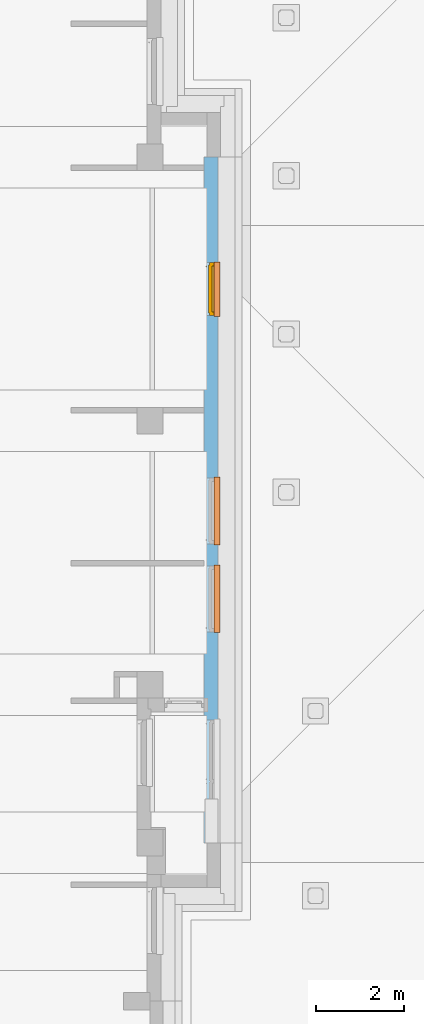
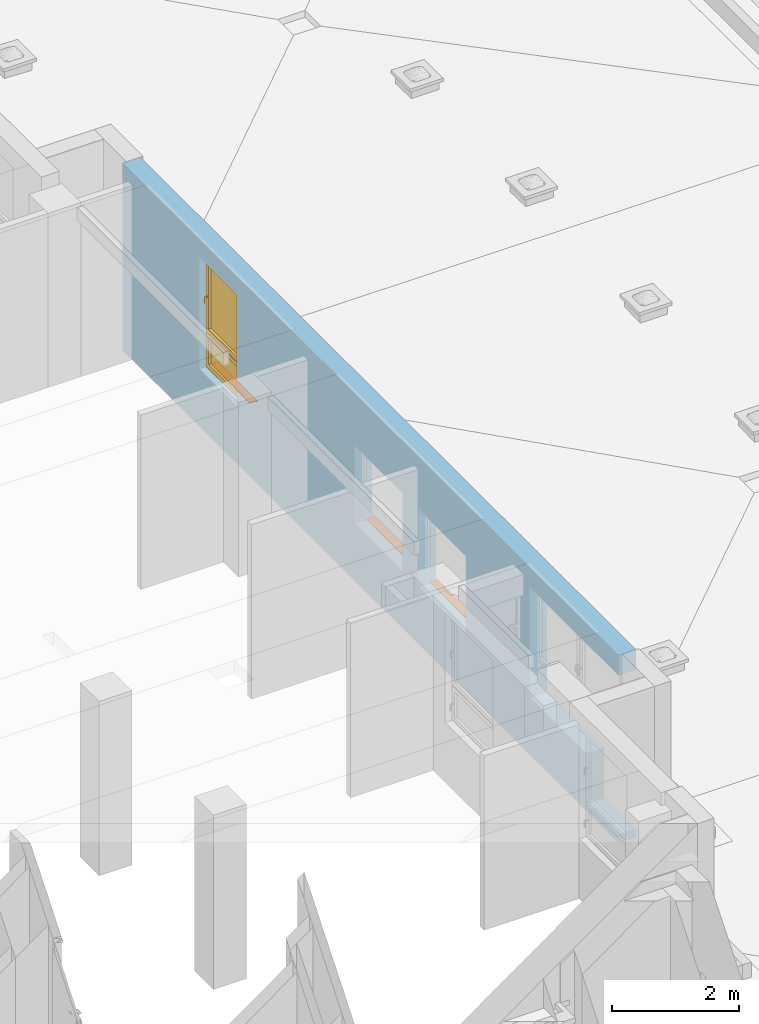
# One storey, part 43 of 50: 3 proxies, 1 window, 5 openings, plus 1 element that does not belong to this part.
"""IFC4 building model written with IfcOpenShell, lengths in metres."""

from ifc_helpers import new_model, entity, si_unit, converted_unit, derived_unit, frame, frame_2d, origin, origin_with_axes, place, context, subcontext, project, spatial, polyline, rectangle, outline, extrude, closed_shell, open_shell, faceted_brep, surface_model, source, transform, mapped, material, layer, layer_set, layer_usage, element, fill, save


model = new_model("IFC4")

# Units and contexts
model_context = context("Model", 3, precision=1e-05, world=origin())
body_context = subcontext(model_context, "Body", "Model", "MODEL_VIEW")
ifc_project = project(units=[si_unit("LENGTHUNIT", "METRE"), si_unit("AREAUNIT", "SQUARE_METRE"), si_unit("VOLUMEUNIT", "CUBIC_METRE"), si_unit("MASSUNIT", "GRAM", prefix="KILO"), converted_unit("PLANEANGLEUNIT", "DEGREE", entity("IfcPlaneAngleMeasure", 0.0174532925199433), si_unit("PLANEANGLEUNIT", "RADIAN"), dimensions=[0, 0, 0, 0, 0, 0, 0]), derived_unit("THERMALTRANSMITTANCEUNIT", [(si_unit("POWERUNIT", "WATT"), 1), (si_unit("THERMODYNAMICTEMPERATUREUNIT", "KELVIN"), -1), (si_unit("LENGTHUNIT", "METRE"), -2)]), derived_unit("VOLUMETRICFLOWRATEUNIT", [(si_unit("LENGTHUNIT", "METRE"), 3), (converted_unit("TIMEUNIT", "hour", entity("IfcTimeMeasure", 3600.0), si_unit("TIMEUNIT", "SECOND"), dimensions=[0, 0, 1, 0, 0, 0, 0]), -1), (si_unit("LENGTHUNIT", "METRE"), -1)])], contexts=[model_context])

# Site, building, storey
site_placement = place(None, origin())
site = spatial("IfcSite", under=ifc_project, at=site_placement, Name="3. ASŘ", CompositionType="ELEMENT")
building_placement = place(site_placement, origin())
building = spatial("IfcBuilding", under=site, at=building_placement, Name="Pavilon C", CompositionType="ELEMENT")
storey_placement = place(building_placement, frame((0.0, 0.0, 3.6)))
storey = spatial("IfcBuildingStorey", under=building, at=storey_placement, Name="Půdorys 2.NP", CompositionType="ELEMENT", Elevation=3.6)

# Wall, openings, window, proxies
ifc_material_1 = material(Name="PLYNOSILIKÁT")
ifc_layer = layer(ifc_material_1, 0.32)
ifc_layer_set = layer_set([ifc_layer])
ifc_layer_usage = layer_usage(ifc_layer_set, "AXIS2", "POSITIVE", 0.0)
wall_placement = place(storey_placement, frame((51.5, 3.59999999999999, -0.1), z_axis=(0.0, 0.0, 1.0), x_axis=(0.0, 1.0, 0.0)))
wall = element("IfcWall", 1, at=wall_placement, inside=storey, material=ifc_layer_usage, Name="PLYNOSILIKÁT", context=body_context, shape_type="SweptSolid", body=[
    extrude(rectangle(XDim=15.6, YDim=0.32, at=frame_2d((7.8, 0.16), x_axis=(1.0, 0.0))), origin_with_axes(), (0.0, 0.0, 1.0), 3.6),
])
opening_1_placement = place(wall_placement, frame((0.0, 0.0, 0.15), z_axis=(0.0, 1.0, 0.0), x_axis=(0.0, 0.0, 1.0)))
element("IfcOpeningElement", 2, at=opening_1_placement, cuts=wall, Name="Okenní otvor", ObjectType="Opening", context=body_context, shape_type="SweptSolid", body=[
    extrude(outline(polyline([(0.0, 1.0), (3.07, 1.0), (3.07, 0.0), (0.0, 0.0), (0.0, 1.0)])), origin_with_axes(), (0.0, 0.0, 1.0), 0.32),
])
opening_2_placement = place(wall_placement, frame((0.999999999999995, 0.0, 1.1), z_axis=(0.0, 1.0, 0.0), x_axis=(0.0, 0.0, 1.0)))
element("IfcOpeningElement", 3, at=opening_2_placement, cuts=wall, Name="Okenní otvor", ObjectType="Opening", context=body_context, shape_type="SweptSolid", body=[
    extrude(outline(polyline([(0.0, 1.8), (2.12, 1.8), (2.12, 0.0), (0.0, 0.0), (0.0, 1.8)])), origin_with_axes(), (0.0, 0.0, 1.0), 0.32),
])
opening_3_placement = place(wall_placement, frame((4.8, 0.0, 1.1), z_axis=(0.0, 1.0, 0.0), x_axis=(0.0, 0.0, 1.0)))
opening_3 = element("IfcOpeningElement", 4, at=opening_3_placement, cuts=wall, Name="Okenní otvor", ObjectType="Opening", context=body_context, shape_type="SweptSolid", body=[
    extrude(outline(polyline([(0.0, 1.5), (1.5, 1.5), (1.5, 0.0), (0.0, 0.0), (0.0, 1.5)])), origin_with_axes(), (0.0, 0.0, 1.0), 0.32),
])
opening_4_placement = place(wall_placement, frame((6.8, 0.0, 1.1), z_axis=(0.0, 1.0, 0.0), x_axis=(0.0, 0.0, 1.0)))
opening_4 = element("IfcOpeningElement", 5, at=opening_4_placement, cuts=wall, Name="Okenní otvor", ObjectType="Opening", context=body_context, shape_type="SweptSolid", body=[
    extrude(outline(polyline([(0.0, 1.5), (1.5, 1.5), (1.5, 0.0), (0.0, 0.0), (0.0, 1.5)])), origin_with_axes(), (0.0, 0.0, 1.0), 0.32),
])
opening_5_placement = place(wall_placement, frame((12.0, 0.0, 1.1), z_axis=(0.0, 1.0, 0.0), x_axis=(0.0, 0.0, 1.0)))
opening_5 = element("IfcOpeningElement", 6, at=opening_5_placement, cuts=wall, Name="Okenní otvor", ObjectType="Opening", context=body_context, shape_type="SweptSolid", body=[
    extrude(outline(polyline([(0.0, 1.2), (2.15, 1.2), (2.15, 0.0), (0.0, 0.0), (0.0, 1.2)])), origin_with_axes(), (0.0, 0.0, 1.0), 0.32),
])
shared_shape_1 = source(origin_with_axes(), body_context, "Body", "SurfaceModel", [
    surface_model("IfcShellBasedSurfaceModel", [(0.0, 0.182, 2.15), (0.0, 0.182, -5.63337527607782e-18), (0.08, 0.182, -5.63337527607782e-18), (0.08, 0.182, 2.15), (0.0, 0.0899999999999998, 5.63337527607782e-18), (0.0, 0.0900000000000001, 2.15), (0.08, 0.0900000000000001, 2.15), (0.08, 0.0899999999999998, 5.63337527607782e-18)], [closed_shell([[[0, 1, 2, 3]], [[4, 5, 6, 7]], [[1, 0, 5, 4]], [[2, 1, 4, 7]], [[3, 2, 7, 6]], [[0, 3, 6, 5]]], orient=[[False], [False], [False], [False], [False], [False]])]),
    surface_model("IfcShellBasedSurfaceModel", [(1.12, 0.182, 2.15), (1.12, 0.182, -5.63337527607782e-18), (1.2, 0.182, -5.63337527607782e-18), (1.2, 0.182, 2.15), (1.12, 0.0899999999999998, 5.63337527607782e-18), (1.12, 0.0900000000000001, 2.15), (1.2, 0.0900000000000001, 2.15), (1.2, 0.0899999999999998, 5.63337527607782e-18)], [closed_shell([[[0, 1, 2, 3]], [[4, 5, 6, 7]], [[1, 0, 5, 4]], [[2, 1, 4, 7]], [[3, 2, 7, 6]], [[0, 3, 6, 5]]], orient=[[False], [False], [False], [False], [False], [False]])]),
    surface_model("IfcShellBasedSurfaceModel", [(0.08, 0.182, 0.08), (0.08, 0.182, -5.63337527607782e-18), (1.12, 0.182, -5.63337527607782e-18), (1.12, 0.182, 0.08), (0.08, 0.0899999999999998, 5.63337527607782e-18), (0.08, 0.0899999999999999, 0.08), (1.12, 0.0899999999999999, 0.08), (1.12, 0.0899999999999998, 5.63337527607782e-18)], [closed_shell([[[0, 1, 2, 3]], [[4, 5, 6, 7]], [[1, 0, 5, 4]], [[2, 1, 4, 7]], [[3, 2, 7, 6]], [[0, 3, 6, 5]]], orient=[[False], [False], [False], [False], [False], [False]])]),
    surface_model("IfcShellBasedSurfaceModel", [(0.08, 0.182, 2.15), (0.08, 0.182, 2.07), (1.12, 0.182, 2.07), (1.12, 0.182, 2.15), (0.08, 0.0900000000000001, 2.07), (0.08, 0.0900000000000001, 2.15), (1.12, 0.0900000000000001, 2.15), (1.12, 0.0900000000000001, 2.07)], [closed_shell([[[0, 1, 2, 3]], [[4, 5, 6, 7]], [[1, 0, 5, 4]], [[2, 1, 4, 7]], [[3, 2, 7, 6]], [[0, 3, 6, 5]]], orient=[[False], [False], [False], [False], [False], [False]])]),
    surface_model("IfcShellBasedSurfaceModel", [(0.08, 0.182, 0.76), (0.08, 0.182, 0.68), (1.12, 0.182, 0.68), (1.12, 0.182, 0.76), (0.08, 0.0899999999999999, 0.68), (0.08, 0.0899999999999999, 0.76), (1.12, 0.0899999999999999, 0.76), (1.12, 0.0899999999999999, 0.68)], [closed_shell([[[0, 1, 2, 3]], [[4, 5, 6, 7]], [[1, 0, 5, 4]], [[2, 1, 4, 7]], [[3, 2, 7, 6]], [[0, 3, 6, 5]]], orient=[[False], [False], [False], [False], [False], [False]])]),
    surface_model("IfcShellBasedSurfaceModel", [(0.05, 0.145, 0.71), (0.05, 0.145, 0.05), (0.13, 0.145, 0.05), (0.13, 0.145, 0.71), (0.05, 0.0599999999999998, 0.05), (0.05, 0.0599999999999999, 0.71), (0.13, 0.0599999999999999, 0.71), (0.13, 0.0599999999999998, 0.05)], [closed_shell([[[0, 1, 2, 3]], [[4, 5, 6, 7]], [[1, 0, 5, 4]], [[2, 1, 4, 7]], [[3, 2, 7, 6]], [[0, 3, 6, 5]]], orient=[[False], [False], [False], [False], [False], [False]])]),
    surface_model("IfcShellBasedSurfaceModel", [(1.07, 0.145, 0.71), (1.07, 0.145, 0.05), (1.15, 0.145, 0.05), (1.15, 0.145, 0.71), (1.07, 0.0599999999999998, 0.05), (1.07, 0.0599999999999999, 0.71), (1.15, 0.0599999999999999, 0.71), (1.15, 0.0599999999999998, 0.05)], [closed_shell([[[0, 1, 2, 3]], [[4, 5, 6, 7]], [[1, 0, 5, 4]], [[2, 1, 4, 7]], [[3, 2, 7, 6]], [[0, 3, 6, 5]]], orient=[[False], [False], [False], [False], [False], [False]])]),
    surface_model("IfcShellBasedSurfaceModel", [(0.13, 0.145, 0.13), (0.13, 0.145, 0.05), (1.07, 0.145, 0.05), (1.07, 0.145, 0.13), (0.13, 0.0599999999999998, 0.05), (0.13, 0.0599999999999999, 0.13), (1.07, 0.0599999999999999, 0.13), (1.07, 0.0599999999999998, 0.05)], [closed_shell([[[0, 1, 2, 3]], [[4, 5, 6, 7]], [[1, 0, 5, 4]], [[2, 1, 4, 7]], [[3, 2, 7, 6]], [[0, 3, 6, 5]]], orient=[[False], [False], [False], [False], [False], [False]])]),
    surface_model("IfcShellBasedSurfaceModel", [(0.13, 0.145, 0.71), (0.13, 0.145, 0.63), (1.07, 0.145, 0.63), (1.07, 0.145, 0.71), (0.13, 0.0599999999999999, 0.63), (0.13, 0.0599999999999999, 0.71), (1.07, 0.0599999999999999, 0.71), (1.07, 0.0599999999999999, 0.63)], [closed_shell([[[0, 1, 2, 3]], [[4, 5, 6, 7]], [[1, 0, 5, 4]], [[2, 1, 4, 7]], [[3, 2, 7, 6]], [[0, 3, 6, 5]]], orient=[[False], [False], [False], [False], [False], [False]])]),
    surface_model("IfcShellBasedSurfaceModel", [(0.05, 0.145, 2.1), (0.05, 0.145, 0.73), (0.13, 0.145, 0.73), (0.13, 0.145, 2.1), (0.05, 0.0599999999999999, 0.73), (0.05, 0.0600000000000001, 2.1), (0.13, 0.0600000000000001, 2.1), (0.13, 0.0599999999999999, 0.73)], [closed_shell([[[0, 1, 2, 3]], [[4, 5, 6, 7]], [[1, 0, 5, 4]], [[2, 1, 4, 7]], [[3, 2, 7, 6]], [[0, 3, 6, 5]]], orient=[[False], [False], [False], [False], [False], [False]])]),
    surface_model("IfcShellBasedSurfaceModel", [(1.07, 0.145, 2.1), (1.07, 0.145, 0.73), (1.15, 0.145, 0.73), (1.15, 0.145, 2.1), (1.07, 0.0599999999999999, 0.73), (1.07, 0.0600000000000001, 2.1), (1.15, 0.0600000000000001, 2.1), (1.15, 0.0599999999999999, 0.73)], [closed_shell([[[0, 1, 2, 3]], [[4, 5, 6, 7]], [[1, 0, 5, 4]], [[2, 1, 4, 7]], [[3, 2, 7, 6]], [[0, 3, 6, 5]]], orient=[[False], [False], [False], [False], [False], [False]])]),
    surface_model("IfcShellBasedSurfaceModel", [(0.13, 0.145, 0.81), (0.13, 0.145, 0.73), (1.07, 0.145, 0.73), (1.07, 0.145, 0.81), (0.13, 0.0599999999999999, 0.73), (0.13, 0.0599999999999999, 0.81), (1.07, 0.0599999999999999, 0.81), (1.07, 0.0599999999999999, 0.73)], [closed_shell([[[0, 1, 2, 3]], [[4, 5, 6, 7]], [[1, 0, 5, 4]], [[2, 1, 4, 7]], [[3, 2, 7, 6]], [[0, 3, 6, 5]]], orient=[[False], [False], [False], [False], [False], [False]])]),
    surface_model("IfcShellBasedSurfaceModel", [(0.13, 0.145, 2.1), (0.13, 0.145, 2.02), (1.07, 0.145, 2.02), (1.07, 0.145, 2.1), (0.13, 0.0600000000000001, 2.02), (0.13, 0.0600000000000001, 2.1), (1.07, 0.0600000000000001, 2.1), (1.07, 0.0600000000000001, 2.02)], [closed_shell([[[0, 1, 2, 3]], [[4, 5, 6, 7]], [[1, 0, 5, 4]], [[2, 1, 4, 7]], [[3, 2, 7, 6]], [[0, 3, 6, 5]]], orient=[[False], [False], [False], [False], [False], [False]])]),
    surface_model("IfcShellBasedSurfaceModel", [(0.0775, 0.06, 1.435), (0.0775, 0.06, 1.395), (0.1025, 0.06, 1.395), (0.1025, 0.06, 1.435), (0.0775, 0.05, 1.395), (0.0775, 0.05, 1.435), (0.1025, 0.05, 1.435), (0.1025, 0.05, 1.395)], [closed_shell([[[0, 1, 2, 3]], [[4, 5, 6, 7]], [[1, 0, 5, 4]], [[2, 1, 4, 7]], [[3, 2, 7, 6]], [[0, 3, 6, 5]]], orient=[[False], [False], [False], [False], [False], [False]])]),
    surface_model("IfcShellBasedSurfaceModel", [(0.1, 0.05, 1.415), (0.0986602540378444, 0.05, 1.42), (0.095, 0.05, 1.42366025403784), (0.09, 0.05, 1.425), (0.085, 0.05, 1.42366025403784), (0.0813397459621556, 0.05, 1.42), (0.08, 0.05, 1.415), (0.0813397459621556, 0.05, 1.41), (0.085, 0.05, 1.40633974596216), (0.09, 0.05, 1.405), (0.095, 0.05, 1.40633974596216), (0.0986602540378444, 0.05, 1.41), (0.1, 0.01, 1.415), (0.0986602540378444, 0.00500000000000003, 1.42), (0.095, 0.00133974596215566, 1.42366025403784), (0.09, 2.8421709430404e-17, 1.425), (0.085, 0.00133974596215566, 1.42366025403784), (0.0813397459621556, 0.00500000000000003, 1.42), (0.08, 0.01, 1.415), (0.0813397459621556, 0.015, 1.41), (0.085, 0.0186602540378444, 1.40633974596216), (0.09, 0.02, 1.405), (0.095, 0.0186602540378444, 1.40633974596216), (0.0986602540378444, 0.015, 1.41), (0.1, 0.01, 1.3), (0.0986602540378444, 0.005, 1.3), (0.095, 0.00133974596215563, 1.3), (0.09, 0.0, 1.3), (0.085, 0.00133974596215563, 1.3), (0.0813397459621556, 0.005, 1.3), (0.08, 0.01, 1.3), (0.0813397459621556, 0.015, 1.3), (0.085, 0.0186602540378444, 1.3), (0.09, 0.02, 1.3), (0.095, 0.0186602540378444, 1.3), (0.0986602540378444, 0.015, 1.3)], [open_shell([[[0, 1, 2, 3, 4, 5, 6, 7, 8, 9, 10, 11]], [[0, 12, 13, 1]], [[1, 13, 14, 2]], [[2, 14, 15, 3]], [[3, 15, 16, 4]], [[4, 16, 17, 5]], [[5, 17, 18, 6]], [[6, 18, 19, 7]], [[7, 19, 20, 8]], [[8, 20, 21, 9]], [[9, 21, 22, 10]], [[10, 22, 23, 11]], [[11, 23, 12, 0]], [[12, 24, 25, 13]], [[13, 25, 26, 14]], [[14, 26, 27, 15]], [[15, 27, 28, 16]], [[16, 28, 29, 17]], [[17, 29, 30, 18]], [[18, 30, 31, 19]], [[19, 31, 32, 20]], [[20, 32, 33, 21]], [[21, 33, 34, 22]], [[22, 34, 35, 23]], [[23, 35, 24, 12]]], orient=[[False], [False], [False], [False], [False], [False], [False], [False], [False], [False], [False], [False], [False], [False], [False], [False], [False], [False], [False], [False], [False], [False], [False], [False], [False]])]),
    surface_model("IfcShellBasedSurfaceModel", [(0.13, 0.1025, 0.13), (1.07, 0.1025, 0.13), (1.07, 0.1025, 0.63), (0.13, 0.1025, 0.63)], [open_shell([[[0, 1, 2, 3]]], orient=[[False]])]),
    surface_model("IfcShellBasedSurfaceModel", [(0.13, 0.1025, 0.81), (1.07, 0.1025, 0.81), (1.07, 0.1025, 2.02), (0.13, 0.1025, 2.02)], [open_shell([[[0, 1, 2, 3]]], orient=[[False]])]),
])
window_placement = place(opening_5_placement, frame((0.0, 1.19999999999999, 0.282000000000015), z_axis=(1.0, 0.0, 0.0), x_axis=(0.0, -1.0, 2.44929359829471e-16)))
window = element("IfcWindow", 7, at=window_placement, inside=storey, Name="O06", OverallHeight=2.15, OverallWidth=1.2, PartitioningType="USERDEFINED", PredefinedType="WINDOW", context=body_context, shape_type="MappedRepresentation", body=[
    mapped(shared_shape_1, transform((0.0, 0.0, 0.0), x_axis=(1.0, 0.0, 0.0), y_axis=(0.0, 1.0, 0.0), z_axis=(0.0, 0.0, 1.0), scale=1.0)),
])
fill(opening_5, window)
ifc_material_2 = material(Name="PLECH")
shared_shape_2 = source(origin_with_axes(), body_context, "Body", "Brep", [
    faceted_brep([(-3.63797880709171e-15, 1.45519152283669e-14, 0.0), (-3.63797880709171e-15, 0.100000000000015, 0.0), (-3.63797880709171e-15, 0.100000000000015, 0.005), (-3.63797880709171e-15, 1.45519152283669e-14, 0.005), (1.5, 1.45519152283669e-14, 0.0), (1.5, 1.45519152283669e-14, 0.005), (1.5, 0.100000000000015, 0.005), (1.5, 0.100000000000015, 0.0), (-0.0200000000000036, 1.45519152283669e-14, 0.0), (-0.0200000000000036, -0.0349999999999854, 0.0), (1.52, -0.0349999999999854, 0.0), (1.52, 1.45519152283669e-14, 0.0), (1.52, 1.45519152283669e-14, 0.005), (1.52, -0.0399999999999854, 0.005), (-0.0200000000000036, -0.0399999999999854, 0.005), (-0.0200000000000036, 1.45519152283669e-14, 0.005), (-0.0200000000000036, -0.0399999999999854, -0.025), (-0.0200000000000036, -0.0349999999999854, -0.025), (1.52, -0.0349999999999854, -0.025), (1.52, -0.0399999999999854, -0.025)], [[[0, 1, 2, 3]], [[4, 5, 6, 7]], [[1, 0, 8, 9, 10, 11, 4, 7]], [[2, 1, 7, 6]], [[3, 2, 6, 5, 12, 13, 14, 15]], [[8, 15, 14, 16, 17, 9]], [[11, 10, 18, 19, 13, 12]], [[15, 8, 0, 3]], [[5, 4, 11, 12]], [[16, 14, 13, 19]], [[17, 16, 19, 18]], [[9, 17, 18, 10]]], orient=[[False], [False], [False], [False], [False], [False], [False], [False], [False], [False], [False], [False]]),
    faceted_brep([(-0.0200000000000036, 1.45519152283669e-14, 0.0), (-0.0200000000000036, 0.100000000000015, 0.0), (-0.0200000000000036, 0.100000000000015, 0.005), (-0.0200000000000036, 1.45519152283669e-14, 0.005), (-3.63797880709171e-15, 1.45519152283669e-14, 0.0), (-3.63797880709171e-15, 1.45519152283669e-14, 0.005), (-3.63797880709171e-15, 0.100000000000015, 0.005), (-3.63797880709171e-15, 0.100000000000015, 0.0)], [[[0, 1, 2, 3]], [[4, 5, 6, 7]], [[1, 0, 4, 7]], [[2, 1, 7, 6]], [[3, 2, 6, 5]], [[0, 3, 5, 4]]], orient=[[False], [False], [False], [False], [False], [False]]),
    faceted_brep([(1.5, 1.45519152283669e-14, 0.0), (1.5, 0.100000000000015, 0.0), (1.5, 0.100000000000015, 0.005), (1.5, 1.45519152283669e-14, 0.005), (1.52, 1.45519152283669e-14, 0.0), (1.52, 1.45519152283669e-14, 0.005), (1.52, 0.100000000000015, 0.005), (1.52, 0.100000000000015, 0.0)], [[[0, 1, 2, 3]], [[4, 5, 6, 7]], [[1, 0, 4, 7]], [[2, 1, 7, 6]], [[3, 2, 6, 5]], [[0, 3, 5, 4]]], orient=[[False], [False], [False], [False], [False], [False]]),
])
proxy_1_placement = place(opening_3_placement, frame((0.0, 0.0, 0.0), z_axis=(1.0, 0.0, 0.0), x_axis=(0.0, 1.0, 0.0)))
proxy_1 = element("IfcBuildingElementProxy", 8, at=proxy_1_placement, inside=storey, material=ifc_material_2, Name="Parapet vnější", context=body_context, shape_type="MappedRepresentation", body=[
    mapped(shared_shape_2, transform((0.0, 0.0, 0.0), x_axis=(1.0, 0.0, 0.0), y_axis=(0.0, 1.0, 0.0), z_axis=(0.0, 0.0, 1.0), scale=1.0)),
])
fill(opening_3, proxy_1)
ifc_material_3 = material(Name="PLECH")
shared_shape_3 = source(origin_with_axes(), body_context, "Body", "Brep", [
    faceted_brep([(-3.63797880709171e-15, 1.45519152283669e-14, 0.0), (-3.63797880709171e-15, 0.100000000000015, 0.0), (-3.63797880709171e-15, 0.100000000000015, 0.005), (-3.63797880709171e-15, 1.45519152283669e-14, 0.005), (1.5, 1.45519152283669e-14, 0.0), (1.5, 1.45519152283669e-14, 0.005), (1.5, 0.100000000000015, 0.005), (1.5, 0.100000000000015, 0.0), (-0.0200000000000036, 1.45519152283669e-14, 0.0), (-0.0200000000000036, -0.0349999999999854, 0.0), (1.52, -0.0349999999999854, 0.0), (1.52, 1.45519152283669e-14, 0.0), (1.52, 1.45519152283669e-14, 0.005), (1.52, -0.0399999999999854, 0.005), (-0.0200000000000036, -0.0399999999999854, 0.005), (-0.0200000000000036, 1.45519152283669e-14, 0.005), (-0.0200000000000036, -0.0399999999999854, -0.025), (-0.0200000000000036, -0.0349999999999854, -0.025), (1.52, -0.0349999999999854, -0.025), (1.52, -0.0399999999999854, -0.025)], [[[0, 1, 2, 3]], [[4, 5, 6, 7]], [[1, 0, 8, 9, 10, 11, 4, 7]], [[2, 1, 7, 6]], [[3, 2, 6, 5, 12, 13, 14, 15]], [[8, 15, 14, 16, 17, 9]], [[11, 10, 18, 19, 13, 12]], [[15, 8, 0, 3]], [[5, 4, 11, 12]], [[16, 14, 13, 19]], [[17, 16, 19, 18]], [[9, 17, 18, 10]]], orient=[[False], [False], [False], [False], [False], [False], [False], [False], [False], [False], [False], [False]]),
    faceted_brep([(-0.0200000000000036, 1.45519152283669e-14, 0.0), (-0.0200000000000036, 0.100000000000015, 0.0), (-0.0200000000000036, 0.100000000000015, 0.005), (-0.0200000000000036, 1.45519152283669e-14, 0.005), (-3.63797880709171e-15, 1.45519152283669e-14, 0.0), (-3.63797880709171e-15, 1.45519152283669e-14, 0.005), (-3.63797880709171e-15, 0.100000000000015, 0.005), (-3.63797880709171e-15, 0.100000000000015, 0.0)], [[[0, 1, 2, 3]], [[4, 5, 6, 7]], [[1, 0, 4, 7]], [[2, 1, 7, 6]], [[3, 2, 6, 5]], [[0, 3, 5, 4]]], orient=[[False], [False], [False], [False], [False], [False]]),
    faceted_brep([(1.5, 1.45519152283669e-14, 0.0), (1.5, 0.100000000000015, 0.0), (1.5, 0.100000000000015, 0.005), (1.5, 1.45519152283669e-14, 0.005), (1.52, 1.45519152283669e-14, 0.0), (1.52, 1.45519152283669e-14, 0.005), (1.52, 0.100000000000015, 0.005), (1.52, 0.100000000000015, 0.0)], [[[0, 1, 2, 3]], [[4, 5, 6, 7]], [[1, 0, 4, 7]], [[2, 1, 7, 6]], [[3, 2, 6, 5]], [[0, 3, 5, 4]]], orient=[[False], [False], [False], [False], [False], [False]]),
])
proxy_2_placement = place(opening_4_placement, frame((0.0, 0.0, 0.0), z_axis=(1.0, 0.0, 0.0), x_axis=(0.0, 1.0, 0.0)))
proxy_2 = element("IfcBuildingElementProxy", 9, at=proxy_2_placement, inside=storey, material=ifc_material_3, Name="Parapet vnější", context=body_context, shape_type="MappedRepresentation", body=[
    mapped(shared_shape_3, transform((0.0, 0.0, 0.0), x_axis=(1.0, 0.0, 0.0), y_axis=(0.0, 1.0, 0.0), z_axis=(0.0, 0.0, 1.0), scale=1.0)),
])
fill(opening_4, proxy_2)
ifc_material_4 = material(Name="PLECH")
shared_shape_4 = source(origin_with_axes(), body_context, "Body", "Brep", [
    faceted_brep([(-3.63797880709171e-15, 1.45519152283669e-14, 0.0), (-3.63797880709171e-15, 0.100000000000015, 0.0), (-3.63797880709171e-15, 0.100000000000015, 0.005), (-3.63797880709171e-15, 1.45519152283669e-14, 0.005), (1.2, 1.45519152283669e-14, 0.0), (1.2, 1.45519152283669e-14, 0.005), (1.2, 0.100000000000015, 0.005), (1.2, 0.100000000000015, 0.0), (-0.0200000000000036, 1.45519152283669e-14, 0.0), (-0.0200000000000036, -0.0349999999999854, 0.0), (1.22, -0.0349999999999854, 0.0), (1.22, 1.45519152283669e-14, 0.0), (1.22, 1.45519152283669e-14, 0.005), (1.22, -0.0399999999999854, 0.005), (-0.0200000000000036, -0.0399999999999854, 0.005), (-0.0200000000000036, 1.45519152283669e-14, 0.005), (-0.0200000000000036, -0.0399999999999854, -0.025), (-0.0200000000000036, -0.0349999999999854, -0.025), (1.22, -0.0349999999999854, -0.025), (1.22, -0.0399999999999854, -0.025)], [[[0, 1, 2, 3]], [[4, 5, 6, 7]], [[1, 0, 8, 9, 10, 11, 4, 7]], [[2, 1, 7, 6]], [[3, 2, 6, 5, 12, 13, 14, 15]], [[8, 15, 14, 16, 17, 9]], [[11, 10, 18, 19, 13, 12]], [[15, 8, 0, 3]], [[5, 4, 11, 12]], [[16, 14, 13, 19]], [[17, 16, 19, 18]], [[9, 17, 18, 10]]], orient=[[False], [False], [False], [False], [False], [False], [False], [False], [False], [False], [False], [False]]),
    faceted_brep([(-0.0200000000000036, 1.45519152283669e-14, 0.0), (-0.0200000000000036, 0.100000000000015, 0.0), (-0.0200000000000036, 0.100000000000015, 0.005), (-0.0200000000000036, 1.45519152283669e-14, 0.005), (-3.63797880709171e-15, 1.45519152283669e-14, 0.0), (-3.63797880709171e-15, 1.45519152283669e-14, 0.005), (-3.63797880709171e-15, 0.100000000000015, 0.005), (-3.63797880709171e-15, 0.100000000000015, 0.0)], [[[0, 1, 2, 3]], [[4, 5, 6, 7]], [[1, 0, 4, 7]], [[2, 1, 7, 6]], [[3, 2, 6, 5]], [[0, 3, 5, 4]]], orient=[[False], [False], [False], [False], [False], [False]]),
    faceted_brep([(1.2, 1.45519152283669e-14, 0.0), (1.2, 0.100000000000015, 0.0), (1.2, 0.100000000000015, 0.005), (1.2, 1.45519152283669e-14, 0.005), (1.22, 1.45519152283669e-14, 0.0), (1.22, 1.45519152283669e-14, 0.005), (1.22, 0.100000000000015, 0.005), (1.22, 0.100000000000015, 0.0)], [[[0, 1, 2, 3]], [[4, 5, 6, 7]], [[1, 0, 4, 7]], [[2, 1, 7, 6]], [[3, 2, 6, 5]], [[0, 3, 5, 4]]], orient=[[False], [False], [False], [False], [False], [False]]),
])
proxy_3_placement = place(opening_5_placement, frame((0.0, 0.0, 0.0), z_axis=(1.0, 0.0, 0.0), x_axis=(0.0, 1.0, 0.0)))
proxy_3 = element("IfcBuildingElementProxy", 10, at=proxy_3_placement, inside=storey, material=ifc_material_4, Name="Parapet vnější", context=body_context, shape_type="MappedRepresentation", body=[
    mapped(shared_shape_4, transform((0.0, 0.0, 0.0), x_axis=(1.0, 0.0, 0.0), y_axis=(0.0, 1.0, 0.0), z_axis=(0.0, 0.0, 1.0), scale=1.0)),
])
fill(opening_5, proxy_3)

save(model, "model.ifc")
